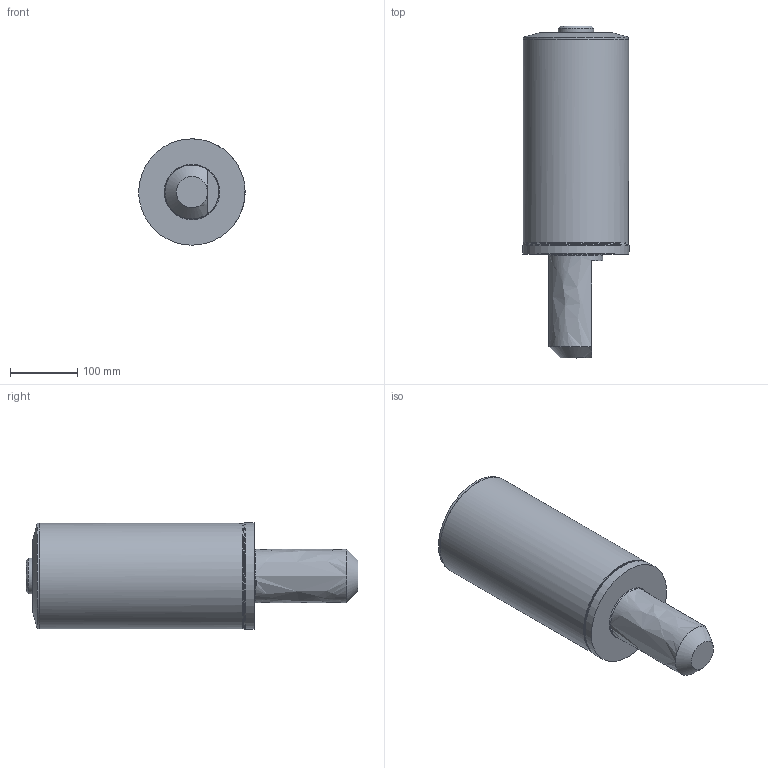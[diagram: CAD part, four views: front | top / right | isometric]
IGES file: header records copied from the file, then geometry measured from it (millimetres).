
Global section: file name: W60 6 IN XL ACTUATOR; native system: Autodesk Inventor 2020; preprocessor: unknown; author: FA67NH; date: 20210423.112955; units: inch
Bounding box: 157.95 x 493.75 x 158.12 mm (x, y, z)
Volume: 6973604.9 mm3; surface area: 240546.9 mm2
Topology: 1 solids, 1 shells, 32 faces, 88 edges, 59 vertices
Faces by surface type: bspline 32
